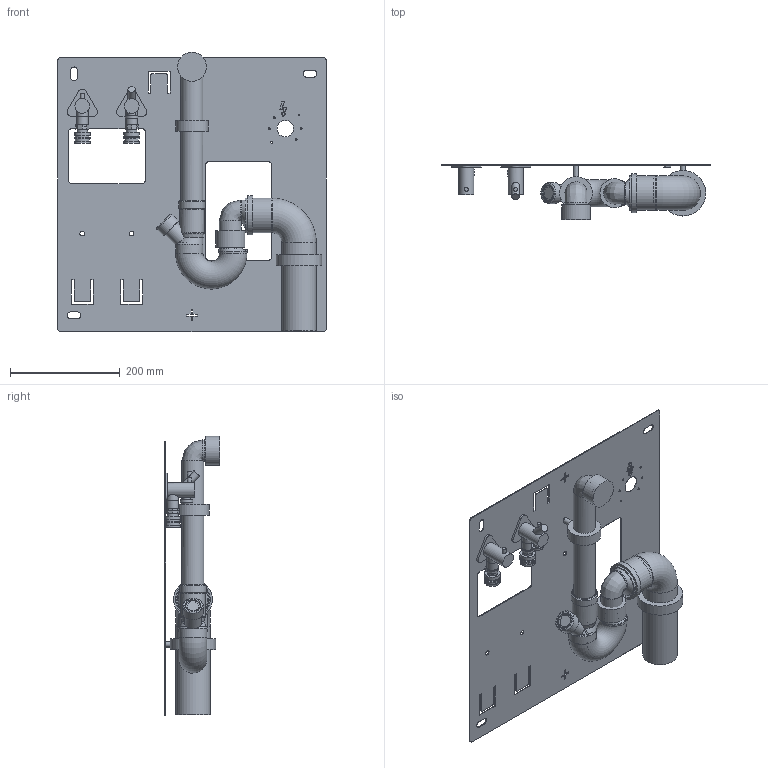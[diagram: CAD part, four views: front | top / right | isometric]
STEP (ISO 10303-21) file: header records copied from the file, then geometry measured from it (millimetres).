
FILE_DESCRIPTION(('STEP AP214'),'1');
FILE_NAME('NYFFix_7950L.STP','2025-09-02T13:48:25',(' '),(' '),'Spatial InterOp 3D',' ',' ');
FILE_SCHEMA(('AUTOMOTIVE_DESIGN { 1 0 10303 214 1 1 1 1 }'));
Length unit declared in the file: millimetre
Products named in the file (1): Torus
Bounding box: 490 x 100.5 x 509.28 mm (x, y, z)
Volume: 1041760.4 mm3; surface area: 842468.2 mm2
Topology: 32 solids, 32 shells, 492 faces, 1209 edges, 783 vertices
Faces by surface type: plane 224, cylinder 213, cone 21, torus 19, bspline 15
Full cylindrical faces by diameter (mm): 3 x6, 5.1 x6, 7 x2, 8.5 x5, 10 x2, 13.867 x1, 14 x1, 19.1 x2, 20.954 x2, 21 x2, 22 x1, 22.622 x1, 24.821 x2, 25 x2, 26.818 x2, 28.2 x2, 28.3 x2, 30 x4, 30.2 x2, 33.249 x2, 36 x3, 36.1 x2, 38 x1, 39 x1, 40 x5, 40.1 x2, 40.5 x1, 40.625 x1, 44.5 x6, 46 x2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
Entity records: 17198 total; most frequent: CARTESIAN_POINT 4223, DIRECTION 2427, ORIENTED_EDGE 2080, EDGE_CURVE 1040, AXIS2_PLACEMENT_3D 976, VERTEX_POINT 750, EDGE_LOOP 708, ADVANCED_FACE 492
